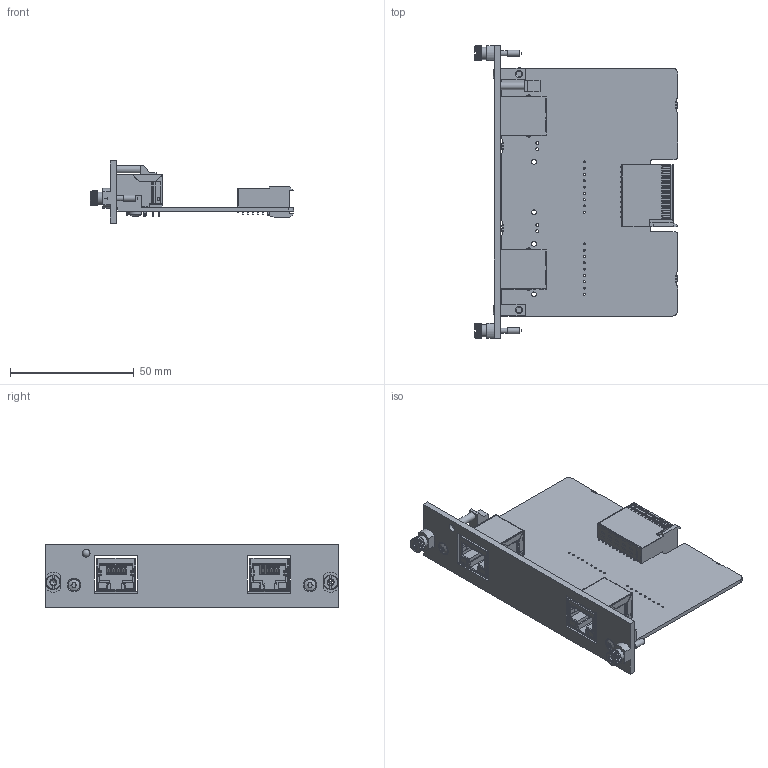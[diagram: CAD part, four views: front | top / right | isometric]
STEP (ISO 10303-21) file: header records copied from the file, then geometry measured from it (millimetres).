
FILE_DESCRIPTION(/* description */ (''),/* implementation_level */ '2;1');
FILE_NAME(/* name */ 'SIM6.4_3D CAD_20250318.stp',/* time_stamp */ '2025-03-18T15:24:10+01:00',/* author */ ('DSP'),/* organization */ (''),/* preprocessor_version */ 'ST-DEVELOPER v19.2',/* originating_system */ 'Autodesk Inventor 2023',/* authorisation */ '');
FILE_SCHEMA (('AUTOMOTIVE_DESIGN { 1 0 10303 214 3 1 1 }'));
Products named in the file (1): SIM6.4_3D CAD_SMPL_20250318
Bounding box: 81.9 x 117.85 x 25.06 mm (x, y, z)
Volume: 26150.8 mm3; surface area: 37642.4 mm2
Topology: 12 solids, 12 shells, 6318 faces, 18119 edges, 11781 vertices
Faces by surface type: plane 4261, cylinder 1864, cone 74, sphere 48, torus 47, bspline 24
Full cylindrical faces by diameter (mm): 0.6 x4, 0.7 x66, 0.8 x18, 0.9 x16, 1 x8, 1.15 x6, 1.422 x2, 1.59 x2, 1.6 x4, 1.9 x4, 2 x2, 2.5 x4, 2.9 x2, 2.997 x1, 3.2 x1, 4.7 x2, 5 x4
Entity records: 215724 total; most frequent: CARTESIAN_POINT 41486, ORIENTED_EDGE 36144, DIRECTION 33943, EDGE_CURVE 18072, LINE 13323, VECTOR 13323, VERTEX_POINT 11781, AXIS2_PLACEMENT_3D 10310
